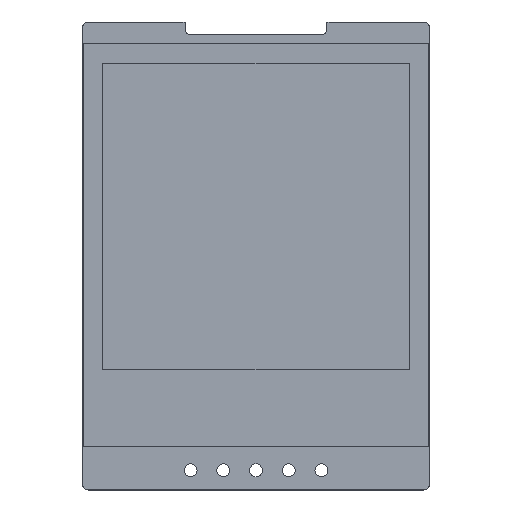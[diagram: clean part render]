
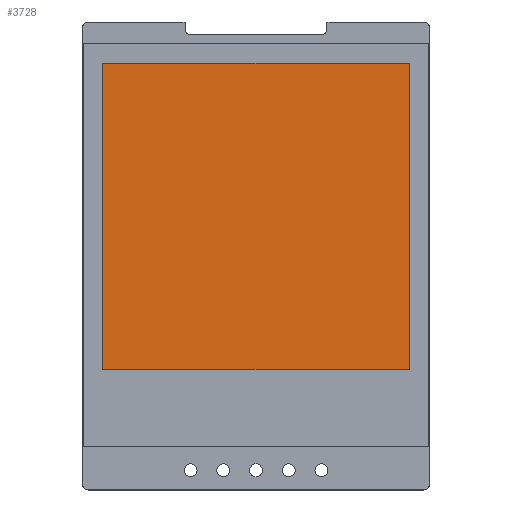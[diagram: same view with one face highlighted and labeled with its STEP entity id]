
A CAD part, top view. The second image highlights one B-rep face of the part: STEP entity #3728.
In plain terms, the highlighted planar face has unit normal (0, 0, 1).
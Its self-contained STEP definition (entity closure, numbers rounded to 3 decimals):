
#3599 = VERTEX_POINT('',#3600);
#3600 = CARTESIAN_POINT('',(-11.9,-8.83,2.));
#3615 = VERTEX_POINT('',#3616);
#3616 = CARTESIAN_POINT('',(-11.9,14.97,2.));
#3622 = EDGE_CURVE('',#3599,#3615,#3623,.T.);
#3623 = LINE('',#3624,#3625);
#3624 = CARTESIAN_POINT('',(-11.9,-8.83,2.));
#3625 = VECTOR('',#3626,1.);
#3626 = DIRECTION('',(-0.,1.,0.));
#3639 = VERTEX_POINT('',#3640);
#3640 = CARTESIAN_POINT('',(11.9,-8.83,2.));
#3655 = VERTEX_POINT('',#3656);
#3656 = CARTESIAN_POINT('',(11.9,14.97,2.));
#3662 = EDGE_CURVE('',#3639,#3655,#3663,.T.);
#3663 = LINE('',#3664,#3665);
#3664 = CARTESIAN_POINT('',(11.9,-8.83,2.));
#3665 = VECTOR('',#3666,1.);
#3666 = DIRECTION('',(-0.,1.,0.));
#3683 = EDGE_CURVE('',#3599,#3639,#3684,.T.);
#3684 = LINE('',#3685,#3686);
#3685 = CARTESIAN_POINT('',(-11.9,-8.83,2.));
#3686 = VECTOR('',#3687,1.);
#3687 = DIRECTION('',(1.,0.,-0.));
#3705 = EDGE_CURVE('',#3615,#3655,#3706,.T.);
#3706 = LINE('',#3707,#3708);
#3707 = CARTESIAN_POINT('',(-11.9,14.97,2.));
#3708 = VECTOR('',#3709,1.);
#3709 = DIRECTION('',(1.,0.,-0.));
#3728 = ADVANCED_FACE('',(#3729),#3735,.T.);
#3729 = FACE_BOUND('',#3730,.T.);
#3730 = EDGE_LOOP('',(#3731,#3732,#3733,#3734));
#3731 = ORIENTED_EDGE('',*,*,#3622,.F.);
#3732 = ORIENTED_EDGE('',*,*,#3683,.T.);
#3733 = ORIENTED_EDGE('',*,*,#3662,.T.);
#3734 = ORIENTED_EDGE('',*,*,#3705,.F.);
#3735 = PLANE('',#3736);
#3736 = AXIS2_PLACEMENT_3D('',#3737,#3738,#3739);
#3737 = CARTESIAN_POINT('',(-11.9,-8.83,2.));
#3738 = DIRECTION('',(0.,0.,1.));
#3739 = DIRECTION('',(1.,0.,-0.));
